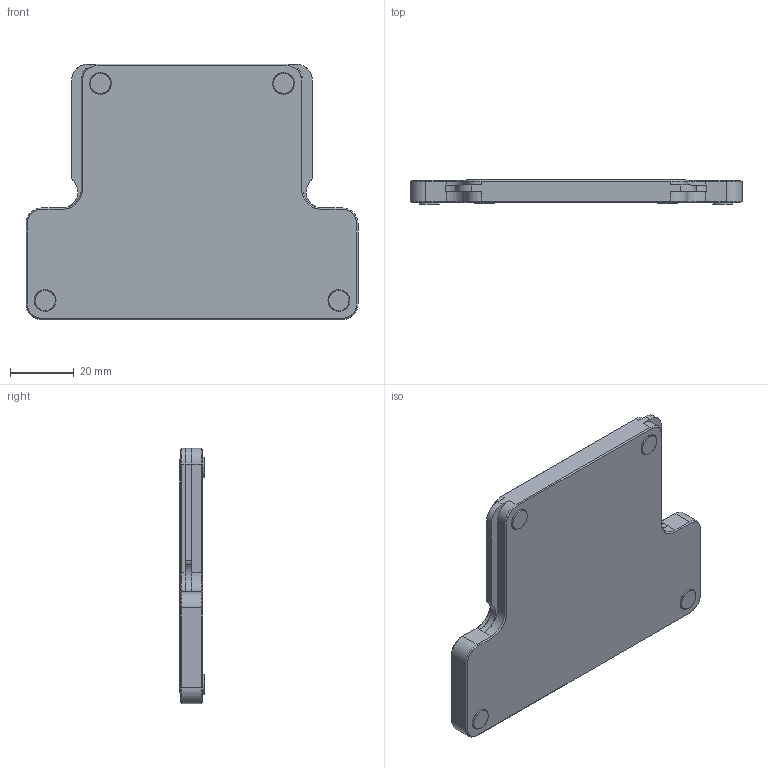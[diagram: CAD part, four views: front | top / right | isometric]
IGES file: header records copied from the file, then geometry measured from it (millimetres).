
Global section: file name: Y:\_LCPD Drawings\13.1 Lightweight Models\9908\LA-9908-0892-A XC-80 MOUNTING PLATE\LA_9908_0892_A.igs; native system: NX V7.5; preprocessor: SIEMENS PLM Software NX 7.5; date: 20120510.152253; units: millimetre
Bounding box: 104 x 7.55 x 80 mm (x, y, z)
Surface area: 16701.5 mm2 (no closed solid volume)
Topology: 0 solids, 0 shells, 491 faces, 2842 edges, 2834 vertices
Faces by surface type: bspline 393, revolution 98
